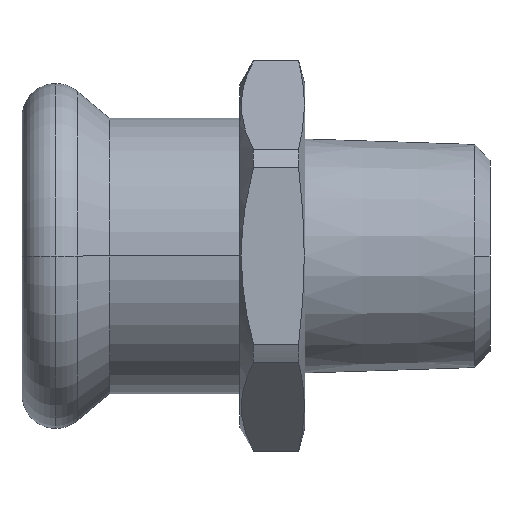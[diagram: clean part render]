
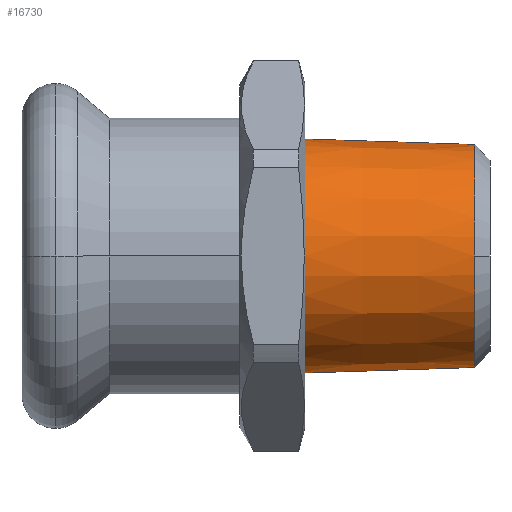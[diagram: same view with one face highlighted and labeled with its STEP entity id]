
A CAD part, front view. The second image highlights one B-rep face of the part: STEP entity #16730.
In plain terms, the highlighted conical face has half-angle 1.853 degrees and reference radius 10.75 mm.
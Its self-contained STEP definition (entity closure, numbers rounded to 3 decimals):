
#370=CARTESIAN_POINT('',(-68.571,21.24,
0.));
#380=DIRECTION('',(-1.,0.,0.));
#390=DIRECTION('',(0.,0.,1.));
#400=AXIS2_PLACEMENT_3D('',#370,#380,#390);
#410=CONICAL_SURFACE('',#400,10.75,0.032);
#420=CARTESIAN_POINT('',(-68.571,21.24,10.75));
#430=DIRECTION('',(-0.999,0.,0.032));
#440=VECTOR('',#430,332.447);
#450=LINE('',#420,#440);
#460=CARTESIAN_POINT('',(-52.97,21.24,
10.245));
#470=VERTEX_POINT('',#460);
#480=CARTESIAN_POINT('',(-68.571,21.24,10.75));
#490=VERTEX_POINT('',#480);
#500=EDGE_CURVE('',#470,#490,#450,.T.);
#520=CARTESIAN_POINT('',(-68.571,21.24,
0.));
#530=DIRECTION('',(-1.,0.,0.));
#540=DIRECTION('',(0.,-0.866,0.5));
#550=AXIS2_PLACEMENT_3D('',#520,#530,#540);
#560=CIRCLE('',#550,10.75);
#610=CARTESIAN_POINT('',(-68.571,21.24,-10.75));
#620=VERTEX_POINT('',#610);
#650=CARTESIAN_POINT('',(-68.571,21.24,-10.75));
#660=DIRECTION('',(-0.999,0.,
-0.032));
#670=VECTOR('',#660,332.447);
#680=LINE('',#650,#670);
#690=CARTESIAN_POINT('',(-52.97,21.24,
-10.245));
#700=VERTEX_POINT('',#690);
#710=EDGE_CURVE('',#700,#620,#680,.T.);
#730=CARTESIAN_POINT('',(-52.97,21.24,
0.));
#740=DIRECTION('',(-1.,0.,0.));
#750=DIRECTION('',(0.,0.,-1.));
#760=AXIS2_PLACEMENT_3D('',#730,#740,#750);
#770=CIRCLE('',#760,10.245);
#3570=CARTESIAN_POINT('',(-52.97,10.994,
0.));
#3580=VERTEX_POINT('',#3570);
#3610=EDGE_CURVE('',#3580,#470,#770,.T.);
#4940=EDGE_CURVE('',#620,#490,#560,.T.);
#16080=EDGE_CURVE('',#700,#3580,#770,.T.);
#16660=ORIENTED_EDGE('',*,*,#3610,.T.);
#16670=ORIENTED_EDGE('',*,*,#16080,.T.);
#16680=ORIENTED_EDGE('',*,*,#710,.F.);
#16690=ORIENTED_EDGE('',*,*,#4940,.F.);
#16700=ORIENTED_EDGE('',*,*,#500,.T.);
#16710=EDGE_LOOP('',(#16700,#16690,#16680,#16670,#16660));
#16720=FACE_OUTER_BOUND('',#16710,.T.);
#16730=ADVANCED_FACE('',(#16720),#410,.T.);
